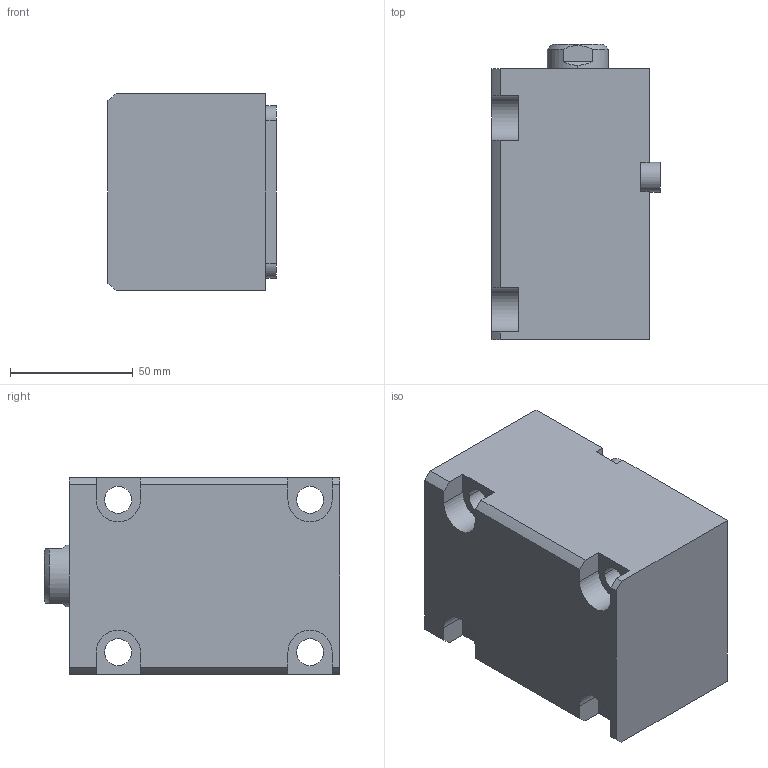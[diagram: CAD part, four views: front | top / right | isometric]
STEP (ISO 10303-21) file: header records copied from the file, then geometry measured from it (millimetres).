
FILE_DESCRIPTION (( 'STEP AP214' ), '1' );
FILE_NAME ('chtb-lam40x55n_asm.STEP', '2018-05-29T08:05:07', ( 'Windows' ), ( 'Microsoft' ), 'SwSTEP 2.0', 'SolidWorks 2015', '' );
FILE_SCHEMA (( 'AUTOMOTIVE_DESIGN' ));
Length unit declared in the file: millimetre
Products named in the file (5): CHTB-LAM40X55NBT; CHTB-LA40PJ; chtb-lam40x55n_asm; CHTB-SD40X55NHSG; CHTB-SD40QG
Assembly tree (4 placements, depth 2):
  chtb-lam40x55n_asm
    CHTB-LA40PJ
    CHTB-LAM40X55NBT
    CHTB-SD40QG
    CHTB-SD40X55NHSG
Bounding box: 68.5 x 120 x 80 mm (x, y, z)
Volume: 484920.9 mm3; surface area: 91406.5 mm2
Topology: 4 solids, 4 shells, 154 faces, 418 edges, 278 vertices
Faces by surface type: cylinder 73, plane 46, bspline 14, torus 12, cone 9
Entity records: 10092 total; most frequent: CARTESIAN_POINT 6074, ORIENTED_EDGE 824, DIRECTION 755, EDGE_CURVE 412, AXIS2_PLACEMENT_3D 300, VERTEX_POINT 278, EDGE_LOOP 180, LINE 155
